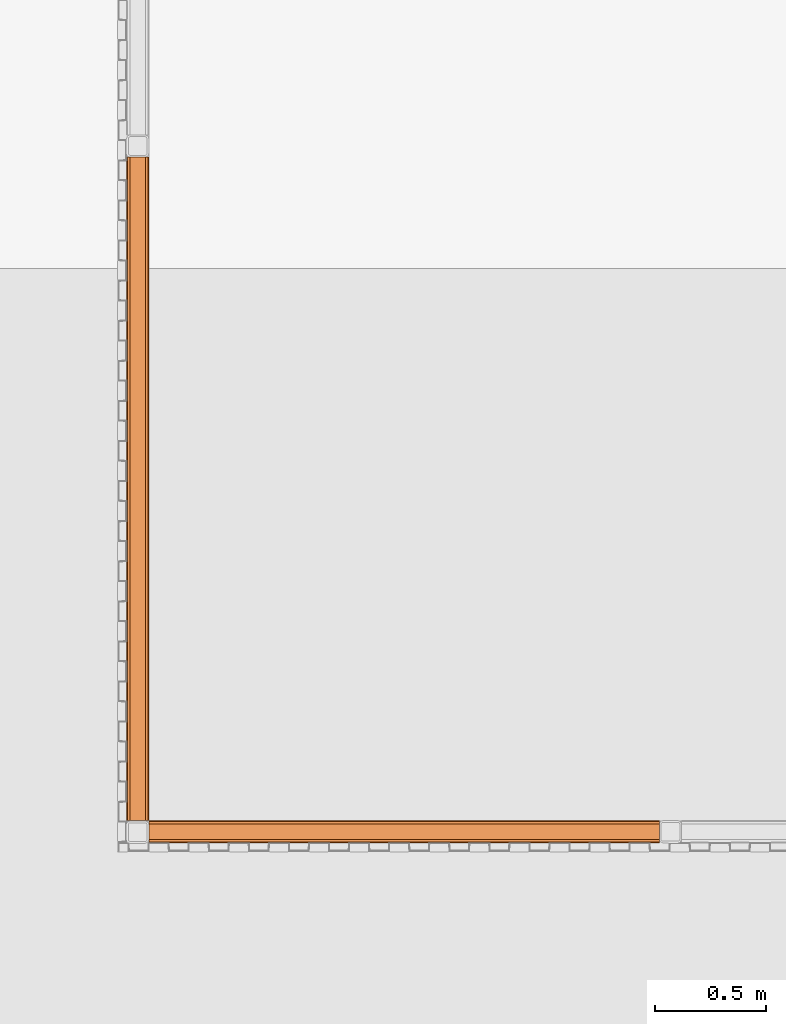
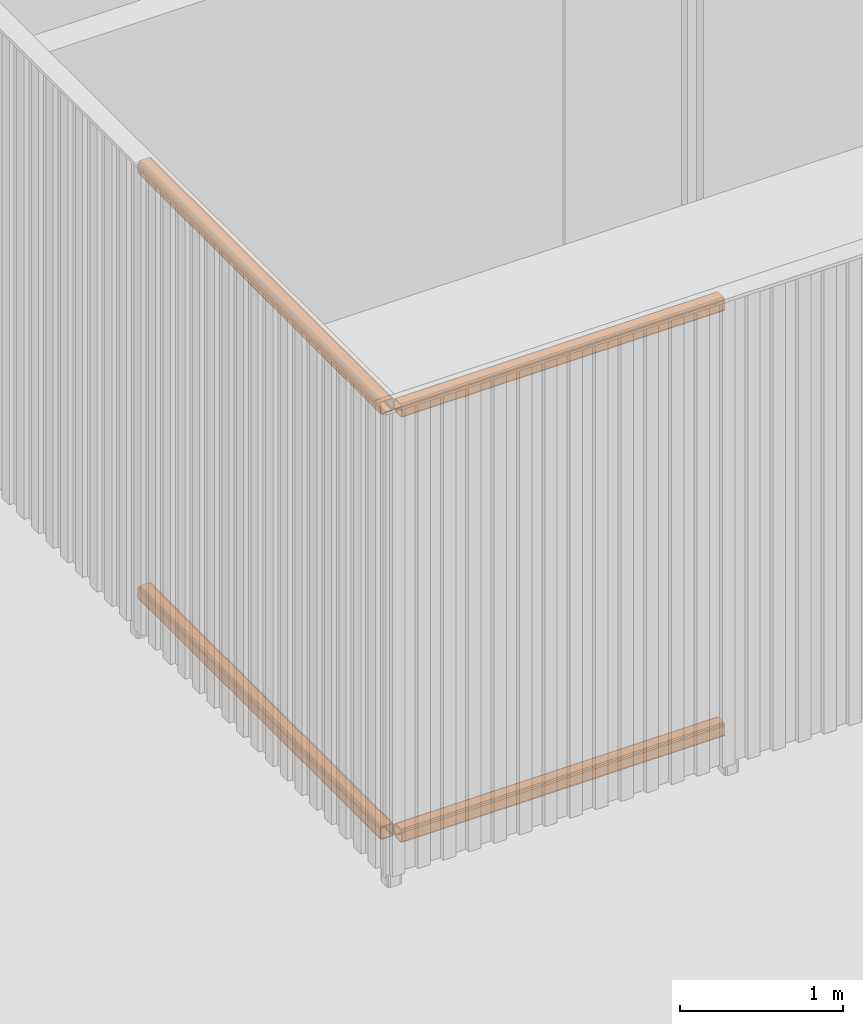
# One storey, part 20 of 22: 4 proxies.
"""IFC2X3 building model written with IfcOpenShell, lengths in millimetres."""

from ifc_helpers import new_model, entity, si_unit, converted_unit, derived_unit, money_unit, direction, frame, origin_with_axes, place, context, subcontext, project, spatial, faceted_brep, material, type_object, element, save


model = new_model("IFC2X3")

# Units and contexts
model_context = context("Model", 3, precision=0.01, world=origin_with_axes(), true_north=direction((0.0, 1.0)))
body_context = subcontext(model_context, "Body", "Model", "MODEL_VIEW")
ifc_project = project(units=[si_unit("LENGTHUNIT", "METRE", prefix="MILLI"), si_unit("AREAUNIT", "SQUARE_METRE"), si_unit("VOLUMEUNIT", "CUBIC_METRE"), converted_unit("PLANEANGLEUNIT", "DEGREE", entity("IfcPlaneAngleMeasure", 0.0174532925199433), si_unit("PLANEANGLEUNIT", "RADIAN"), dimensions=[0, 0, 0, 0, 0, 0, 0]), money_unit("EUR"), converted_unit("TIMEUNIT", "Year", entity("IfcTimeMeasure", 31557600.0), si_unit("TIMEUNIT", "SECOND"), dimensions=[0, 0, 1, 0, 0, 0, 0]), si_unit("MASSUNIT", "GRAM", prefix="KILO"), si_unit("THERMODYNAMICTEMPERATUREUNIT", "DEGREE_CELSIUS"), si_unit("LUMINOUSINTENSITYUNIT", "LUMEN"), si_unit("ENERGYUNIT", "JOULE", prefix="MEGA"), derived_unit("THERMALCONDUCTANCEUNIT", [(si_unit("POWERUNIT", "WATT"), 1), (si_unit("LENGTHUNIT", "METRE"), -1), (si_unit("THERMODYNAMICTEMPERATUREUNIT", "KELVIN"), -1)]), derived_unit("SPECIFICHEATCAPACITYUNIT", [(si_unit("ENERGYUNIT", "JOULE"), 1), (si_unit("MASSUNIT", "GRAM", prefix="KILO"), -1), (si_unit("THERMODYNAMICTEMPERATUREUNIT", "KELVIN"), -1)]), derived_unit("MASSDENSITYUNIT", [(si_unit("MASSUNIT", "GRAM", prefix="KILO"), 1), (si_unit("VOLUMEUNIT", "CUBIC_METRE"), -1)])], contexts=[model_context])

# Site, building, storey
site_placement = place(None, origin_with_axes())
site = spatial("IfcSite", under=ifc_project, at=site_placement, Name="Site", CompositionType="ELEMENT")
building_placement = place(site_placement, origin_with_axes())
building = spatial("IfcBuilding", under=site, at=building_placement, Name="Naam gebouw", CompositionType="ELEMENT")
storey_placement = place(building_placement, frame((0.0, 0.0, 11150.0), z_axis=(0.0, 0.0, 1.0), x_axis=(1.0, 0.0, 0.0)))
storey = spatial("IfcBuildingStorey", under=building, at=storey_placement, Name="3e verdieping/dak N", CompositionType="ELEMENT", Elevation=11150.0)

# Proxies
ifc_material = material(Name="Metaal - Staal AFW")
building_element_proxy_type = type_object("IfcBuildingElementProxyType", Name="Buis vk koudgev balk 26", PredefinedType="NOTDEFINED")
proxy_1_placement = place(storey_placement, frame((12007.73977383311, 10445.91242510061, 449.9999999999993), z_axis=(0.0, 0.0, 1.0), x_axis=(0.0, 1.0, 0.0)))
element("IfcBuildingElementProxy", 1, at=proxy_1_placement, inside=storey, type_object=building_element_proxy_type, material=ifc_material, Name="_Boom-x", context=body_context, shape_type="Brep", body=[
    faceted_brep([(0.0, -34.0, 0.0), (-2979.282488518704, -34.00000000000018, 0.0), (-2979.282488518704, 33.99999999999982, 0.0), (0.0, 34.0, 0.0), (0.0, -45.31370849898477, 4.686291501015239), (-2979.282488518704, -45.31370849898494, 4.686291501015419), (-2979.282488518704, -50.00000000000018, 16.00000000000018), (-2979.282488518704, -50.00000000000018, 84.00000000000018), (-2979.282488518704, -45.31370849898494, 95.31370849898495), (-2979.282488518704, -34.00000000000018, 100.0000000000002), (-2979.282488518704, 33.99999999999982, 100.0000000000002), (-2979.282488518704, 45.31370849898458, 95.31370849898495), (-2979.282488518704, 49.99999999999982, 84.00000000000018), (-2979.282488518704, 49.99999999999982, 16.00000000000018), (-2979.282488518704, 45.31370849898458, 4.686291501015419), (-2979.282488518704, -34.00000000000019, 8.000000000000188), (-2979.282488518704, 33.99999999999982, 8.000000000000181), (-2979.282488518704, 39.6568542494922, 10.3431457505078), (-2979.282488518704, 41.99999999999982, 16.00000000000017), (-2979.282488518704, 41.99999999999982, 84.00000000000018), (-2979.282488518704, 39.65685424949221, 89.65685424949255), (-2979.282488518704, 33.99999999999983, 92.00000000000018), (-2979.282488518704, -34.00000000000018, 92.0000000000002), (-2979.282488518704, -39.65685424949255, 89.65685424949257), (-2979.282488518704, -42.00000000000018, 84.00000000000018), (-2979.282488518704, -42.00000000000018, 16.00000000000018), (-2979.282488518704, -39.65685424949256, 10.34314575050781), (0.0, 45.31370849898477, 4.686291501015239), (0.0, 50.0, 16.0), (0.0, 50.0, 84.0), (0.0, 45.31370849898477, 95.31370849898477), (0.0, 34.0, 100.0), (0.0, -34.0, 100.0), (0.0, -45.31370849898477, 95.31370849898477), (0.0, -50.0, 84.0), (0.0, -50.0, 16.0), (0.0, -34.00000000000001, 8.000000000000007), (0.0, -39.65685424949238, 10.34314575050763), (0.0, -42.0, 16.0), (0.0, -41.99999999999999, 84.00000000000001), (0.0, -39.65685424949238, 89.65685424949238), (0.0, -34.0, 92.0), (0.0, 34.00000000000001, 92.0), (0.0, 39.65685424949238, 89.65685424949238), (0.0, 42.0, 84.0), (0.0, 41.99999999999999, 15.99999999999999), (0.0, 39.65685424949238, 10.34314575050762), (0.0, 34.0, 8.0)], [[[0, 1, 2, 3]], [[4, 5, 1, 0]], [[1, 5, 6, 7, 8, 9, 10, 11, 12, 13, 14, 2], [15, 16, 17, 18, 19, 20, 21, 22, 23, 24, 25, 26]], [[3, 2, 14, 27]], [[0, 3, 27, 28, 29, 30, 31, 32, 33, 34, 35, 4], [36, 37, 38, 39, 40, 41, 42, 43, 44, 45, 46, 47]], [[35, 6, 5, 4]], [[34, 7, 6, 35]], [[33, 8, 7, 34]], [[32, 9, 8, 33]], [[31, 10, 9, 32]], [[30, 11, 10, 31]], [[29, 12, 11, 30]], [[28, 13, 12, 29]], [[27, 14, 13, 28]], [[47, 16, 15, 36]], [[46, 17, 16, 47]], [[45, 18, 17, 46]], [[44, 19, 18, 45]], [[43, 20, 19, 44]], [[42, 21, 20, 43]], [[41, 22, 21, 42]], [[40, 23, 22, 41]], [[39, 24, 23, 40]], [[38, 25, 24, 39]], [[37, 26, 25, 38]], [[36, 15, 26, 37]]]),
])
proxy_2_placement = place(storey_placement, frame((12007.73977383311, 10445.91242510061, 3640.0), z_axis=(0.0, 0.0, 1.0), x_axis=(0.0, 1.0, 0.0)))
element("IfcBuildingElementProxy", 2, at=proxy_2_placement, inside=storey, type_object=building_element_proxy_type, material=ifc_material, Name="_Boom-x", context=body_context, shape_type="Brep", body=[
    faceted_brep([(0.0, -34.0, 0.0), (-2979.282488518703, -34.00000000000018, 0.0), (-2979.282488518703, 33.99999999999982, 0.0), (0.0, 34.0, 0.0), (0.0, -45.31370849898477, 4.686291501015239), (-2979.282488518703, -45.31370849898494, 4.686291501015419), (-2979.282488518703, -50.00000000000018, 16.00000000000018), (-2979.282488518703, -50.00000000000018, 84.00000000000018), (-2979.282488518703, -45.31370849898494, 95.31370849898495), (-2979.282488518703, -34.00000000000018, 100.0000000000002), (-2979.282488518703, 33.99999999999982, 100.0000000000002), (-2979.282488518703, 45.31370849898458, 95.31370849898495), (-2979.282488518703, 49.99999999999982, 84.00000000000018), (-2979.282488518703, 49.99999999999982, 16.00000000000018), (-2979.282488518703, 45.31370849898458, 4.686291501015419), (-2979.282488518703, -34.00000000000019, 8.000000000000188), (-2979.282488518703, 33.99999999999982, 8.000000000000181), (-2979.282488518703, 39.6568542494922, 10.3431457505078), (-2979.282488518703, 41.99999999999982, 16.00000000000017), (-2979.282488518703, 41.99999999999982, 84.00000000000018), (-2979.282488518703, 39.65685424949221, 89.65685424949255), (-2979.282488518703, 33.99999999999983, 92.00000000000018), (-2979.282488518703, -34.00000000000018, 92.0000000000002), (-2979.282488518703, -39.65685424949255, 89.65685424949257), (-2979.282488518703, -42.00000000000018, 84.00000000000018), (-2979.282488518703, -42.00000000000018, 16.00000000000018), (-2979.282488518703, -39.65685424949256, 10.34314575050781), (0.0, 45.31370849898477, 4.686291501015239), (0.0, 50.0, 16.0), (0.0, 50.0, 84.0), (0.0, 45.31370849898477, 95.31370849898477), (0.0, 34.0, 100.0), (0.0, -34.0, 100.0), (0.0, -45.31370849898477, 95.31370849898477), (0.0, -50.0, 84.0), (0.0, -50.0, 16.0), (0.0, -34.00000000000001, 8.000000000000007), (0.0, -39.65685424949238, 10.34314575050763), (0.0, -42.0, 16.0), (0.0, -41.99999999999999, 84.00000000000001), (0.0, -39.65685424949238, 89.65685424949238), (0.0, -34.0, 92.0), (0.0, 34.00000000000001, 92.0), (0.0, 39.65685424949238, 89.65685424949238), (0.0, 42.0, 84.0), (0.0, 41.99999999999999, 15.99999999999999), (0.0, 39.65685424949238, 10.34314575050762), (0.0, 34.0, 8.0)], [[[0, 1, 2, 3]], [[4, 5, 1, 0]], [[1, 5, 6, 7, 8, 9, 10, 11, 12, 13, 14, 2], [15, 16, 17, 18, 19, 20, 21, 22, 23, 24, 25, 26]], [[3, 2, 14, 27]], [[0, 3, 27, 28, 29, 30, 31, 32, 33, 34, 35, 4], [36, 37, 38, 39, 40, 41, 42, 43, 44, 45, 46, 47]], [[35, 6, 5, 4]], [[34, 7, 6, 35]], [[33, 8, 7, 34]], [[32, 9, 8, 33]], [[31, 10, 9, 32]], [[30, 11, 10, 31]], [[29, 12, 11, 30]], [[28, 13, 12, 29]], [[27, 14, 13, 28]], [[47, 16, 15, 36]], [[46, 17, 16, 47]], [[45, 18, 17, 46]], [[44, 19, 18, 45]], [[43, 20, 19, 44]], [[42, 21, 20, 43]], [[41, 22, 21, 42]], [[40, 23, 22, 41]], [[39, 24, 23, 40]], [[38, 25, 24, 39]], [[37, 26, 25, 38]], [[36, 15, 26, 37]]]),
])
proxy_3_placement = place(storey_placement, frame((12057.73977383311, 7416.6299365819, 3640.0), z_axis=(0.0, 0.0, 1.0), x_axis=(-1.0, 0.0, 0.0)))
element("IfcBuildingElementProxy", 3, at=proxy_3_placement, inside=storey, type_object=building_element_proxy_type, material=ifc_material, Name="_Boom-x", context=body_context, shape_type="Brep", body=[
    faceted_brep([(0.0, -34.0, 0.0), (-2292.260226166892, -34.00000000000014, 0.0), (-2292.260226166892, 33.99999999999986, 0.0), (0.0, 34.0, 0.0), (0.0, -45.31370849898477, 4.686291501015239), (-2292.260226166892, -45.3137084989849, 4.686291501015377), (-2292.260226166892, -50.00000000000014, 16.00000000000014), (-2292.260226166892, -50.00000000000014, 84.00000000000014), (-2292.260226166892, -45.3137084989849, 95.31370849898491), (-2292.260226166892, -34.00000000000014, 100.0000000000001), (-2292.260226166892, 33.99999999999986, 100.0000000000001), (-2292.260226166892, 45.31370849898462, 95.31370849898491), (-2292.260226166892, 49.99999999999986, 84.00000000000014), (-2292.260226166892, 49.99999999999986, 16.00000000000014), (-2292.260226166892, 45.31370849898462, 4.686291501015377), (-2292.260226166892, -34.00000000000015, 8.000000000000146), (-2292.260226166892, 33.99999999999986, 8.000000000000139), (-2292.260226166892, 39.65685424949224, 10.34314575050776), (-2292.260226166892, 41.99999999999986, 16.00000000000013), (-2292.260226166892, 41.99999999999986, 84.00000000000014), (-2292.260226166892, 39.65685424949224, 89.65685424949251), (-2292.260226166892, 33.99999999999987, 92.00000000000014), (-2292.260226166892, -34.00000000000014, 92.00000000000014), (-2292.260226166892, -39.65685424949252, 89.65685424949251), (-2292.260226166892, -42.00000000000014, 84.00000000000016), (-2292.260226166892, -42.00000000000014, 16.00000000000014), (-2292.260226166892, -39.65685424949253, 10.34314575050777), (0.0, 45.31370849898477, 4.686291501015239), (0.0, 50.0, 16.0), (0.0, 50.0, 84.0), (0.0, 45.31370849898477, 95.31370849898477), (0.0, 34.0, 100.0), (0.0, -34.0, 100.0), (0.0, -45.31370849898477, 95.31370849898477), (0.0, -50.0, 84.0), (0.0, -50.0, 16.0), (0.0, -34.00000000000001, 8.000000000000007), (0.0, -39.65685424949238, 10.34314575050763), (0.0, -42.0, 16.0), (0.0, -41.99999999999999, 84.00000000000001), (0.0, -39.65685424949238, 89.65685424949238), (0.0, -34.0, 92.0), (0.0, 34.00000000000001, 92.0), (0.0, 39.65685424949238, 89.65685424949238), (0.0, 42.0, 84.0), (0.0, 41.99999999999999, 15.99999999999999), (0.0, 39.65685424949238, 10.34314575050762), (0.0, 34.0, 8.0)], [[[0, 1, 2, 3]], [[4, 5, 1, 0]], [[1, 5, 6, 7, 8, 9, 10, 11, 12, 13, 14, 2], [15, 16, 17, 18, 19, 20, 21, 22, 23, 24, 25, 26]], [[3, 2, 14, 27]], [[0, 3, 27, 28, 29, 30, 31, 32, 33, 34, 35, 4], [36, 37, 38, 39, 40, 41, 42, 43, 44, 45, 46, 47]], [[35, 6, 5, 4]], [[34, 7, 6, 35]], [[33, 8, 7, 34]], [[32, 9, 8, 33]], [[31, 10, 9, 32]], [[30, 11, 10, 31]], [[29, 12, 11, 30]], [[28, 13, 12, 29]], [[27, 14, 13, 28]], [[47, 16, 15, 36]], [[46, 17, 16, 47]], [[45, 18, 17, 46]], [[44, 19, 18, 45]], [[43, 20, 19, 44]], [[42, 21, 20, 43]], [[41, 22, 21, 42]], [[40, 23, 22, 41]], [[39, 24, 23, 40]], [[38, 25, 24, 39]], [[37, 26, 25, 38]], [[36, 15, 26, 37]]]),
])
proxy_4_placement = place(storey_placement, frame((12057.73977383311, 7416.6299365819, 450.0000000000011), z_axis=(0.0, 0.0, 1.0), x_axis=(-1.0, 0.0, 0.0)))
element("IfcBuildingElementProxy", 4, at=proxy_4_placement, inside=storey, type_object=building_element_proxy_type, material=ifc_material, Name="_Boom-x", context=body_context, shape_type="Brep", body=[
    faceted_brep([(0.0, -34.0, 0.0), (-2292.260226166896, -34.00000000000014, 0.0), (-2292.260226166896, 33.99999999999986, 0.0), (0.0, 34.0, 0.0), (0.0, -45.31370849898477, 4.686291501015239), (-2292.260226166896, -45.3137084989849, 4.686291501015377), (-2292.260226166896, -50.00000000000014, 16.00000000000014), (-2292.260226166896, -50.00000000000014, 84.00000000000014), (-2292.260226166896, -45.3137084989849, 95.31370849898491), (-2292.260226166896, -34.00000000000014, 100.0000000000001), (-2292.260226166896, 33.99999999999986, 100.0000000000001), (-2292.260226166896, 45.31370849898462, 95.31370849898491), (-2292.260226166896, 49.99999999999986, 84.00000000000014), (-2292.260226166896, 49.99999999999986, 16.00000000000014), (-2292.260226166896, 45.31370849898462, 4.686291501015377), (-2292.260226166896, -34.00000000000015, 8.000000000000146), (-2292.260226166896, 33.99999999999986, 8.000000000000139), (-2292.260226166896, 39.65685424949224, 10.34314575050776), (-2292.260226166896, 41.99999999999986, 16.00000000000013), (-2292.260226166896, 41.99999999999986, 84.00000000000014), (-2292.260226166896, 39.65685424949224, 89.65685424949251), (-2292.260226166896, 33.99999999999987, 92.00000000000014), (-2292.260226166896, -34.00000000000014, 92.00000000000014), (-2292.260226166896, -39.65685424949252, 89.65685424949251), (-2292.260226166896, -42.00000000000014, 84.00000000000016), (-2292.260226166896, -42.00000000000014, 16.00000000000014), (-2292.260226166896, -39.65685424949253, 10.34314575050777), (0.0, 45.31370849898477, 4.686291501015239), (0.0, 50.0, 16.0), (0.0, 50.0, 84.0), (0.0, 45.31370849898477, 95.31370849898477), (0.0, 34.0, 100.0), (0.0, -34.0, 100.0), (0.0, -45.31370849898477, 95.31370849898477), (0.0, -50.0, 84.0), (0.0, -50.0, 16.0), (0.0, -34.00000000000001, 8.000000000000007), (0.0, -39.65685424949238, 10.34314575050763), (0.0, -42.0, 16.0), (0.0, -41.99999999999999, 84.00000000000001), (0.0, -39.65685424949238, 89.65685424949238), (0.0, -34.0, 92.0), (0.0, 34.00000000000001, 92.0), (0.0, 39.65685424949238, 89.65685424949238), (0.0, 42.0, 84.0), (0.0, 41.99999999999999, 15.99999999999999), (0.0, 39.65685424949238, 10.34314575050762), (0.0, 34.0, 8.0)], [[[0, 1, 2, 3]], [[4, 5, 1, 0]], [[1, 5, 6, 7, 8, 9, 10, 11, 12, 13, 14, 2], [15, 16, 17, 18, 19, 20, 21, 22, 23, 24, 25, 26]], [[3, 2, 14, 27]], [[0, 3, 27, 28, 29, 30, 31, 32, 33, 34, 35, 4], [36, 37, 38, 39, 40, 41, 42, 43, 44, 45, 46, 47]], [[35, 6, 5, 4]], [[34, 7, 6, 35]], [[33, 8, 7, 34]], [[32, 9, 8, 33]], [[31, 10, 9, 32]], [[30, 11, 10, 31]], [[29, 12, 11, 30]], [[28, 13, 12, 29]], [[27, 14, 13, 28]], [[47, 16, 15, 36]], [[46, 17, 16, 47]], [[45, 18, 17, 46]], [[44, 19, 18, 45]], [[43, 20, 19, 44]], [[42, 21, 20, 43]], [[41, 22, 21, 42]], [[40, 23, 22, 41]], [[39, 24, 23, 40]], [[38, 25, 24, 39]], [[37, 26, 25, 38]], [[36, 15, 26, 37]]]),
])

save(model, "model.ifc")
